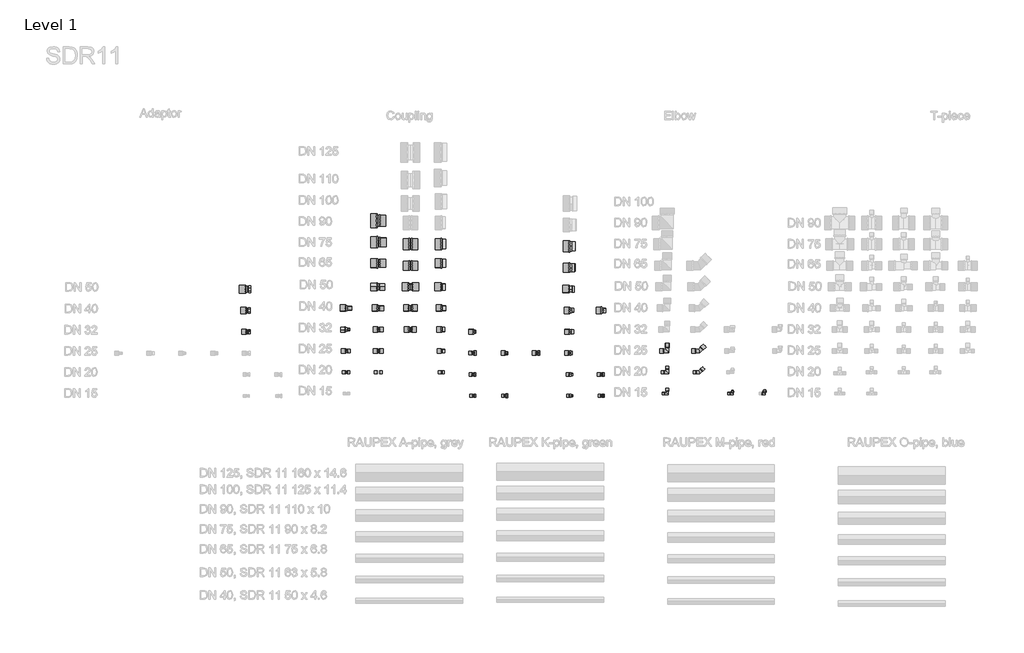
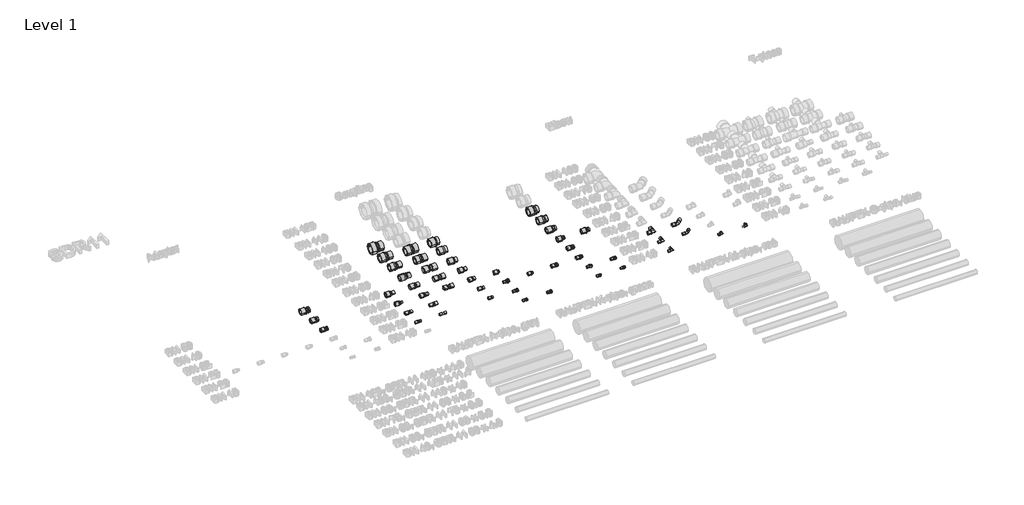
# One storey, part 3 of 16: 124 pipe fittings.
"""IFC4 building model written with IfcOpenShell, lengths in millimetres."""

from ifc_helpers import new_model, si_unit, origin, place, context, project, spatial, transform, mapped, element, save
from components import pipe_fitting_af9ba397, pipe_fitting_2c702f34, pipe_fitting_be5980b3, pipe_fitting_0d2e2301, pipe_fitting_3aadb600, pipe_fitting_378b12e4, pipe_fitting_00baa34a, pipe_fitting_dab1daa7, pipe_fitting_c9fbcce2, pipe_fitting_98be0705, pipe_fitting_7b38b3fe, pipe_fitting_3647528e, pipe_fitting_8175d26d, pipe_fitting_2041175b, pipe_fitting_f16ebe25, pipe_fitting_526a7da2, pipe_fitting_44d2cd18, adapter_with_union_nut_sdr11_a_union_nut_lx_b692c261, adapter_with_union_nut_sdr11_a_union_nut_lx_88bdcbd4, adapter_with_union_nut_sdr11_a_union_nut_lx_b8b73a84, coupling_union_f10d7a8f, coupling_union_f24334cc, coupling_union_26f199f2, coupling_union_cbcc5ad7, coupling_union_0abae06c, coupling_union_130b633a, elbow_sdr11_lx_elbow_sdr_11_lx_623d303d, elbow_sdr11_lx_elbow_sdr_11_lx_9afd64a0, elbow_sdr11_lx_elbow_sdr_11_lx_04f5514c, elbow_sdr11_lx_elbow_sdr_11_lx_81e20379, elbow_sdr11_lx_elbow_sdr_11_lx_e0cd5045, elbow_adapter_sdr11_lx_elbow_adapter_sdr_11_lx_4b792a66, elbow_adapter_sdr11_lx_elbow_adapter_sdr_11_lx_cc2d060e, female_adapter_internal_thread_sdr11_female_adapter_lx_e3558355, female_adapter_internal_thread_sdr11_female_adapter_lx_b72150e8, female_adapter_internal_thread_sdr11_female_adapter_lx_0baaf817, female_adapter_internal_thread_sdr11_female_adapter_lx_4a9fde89, female_adapter_internal_thread_sdr11_female_adapter_lx_76b21a85, female_adapter_internal_thread_sdr11_female_adapter_lx_59931cbf, female_adapter_internal_thread_sdr11_female_adapter_lx_052b0fb5, male_adapter_external_thread_sdr11_male_adapter_lx_4a5881c0, male_adapter_external_thread_sdr11_male_adapter_lx_f4faac24, male_adapter_external_thread_sdr11_male_adapter_lx_0d78ced2, male_adapter_external_thread_sdr11_male_adapter_lx_96740124, male_adapter_external_thread_sdr11_male_adapter_lx_289b96de, male_adapter_external_thread_sdr11_male_adapter_lx_11594ce0, male_adapter_external_thread_sdr11_male_adapter_lx_ea96c67b, male_adapter_external_thread_sdr11_male_adapter_lx_b940736f, male_adapter_external_thread_sdr11_male_adapter_lx_cf543375, male_adapter_external_thread_sdr11_male_adapter_rx_4136f3fd, male_adapter_external_thread_sdr11_male_adapter_rx_7419d65c, sleeve_lx_11_2e170aa1, sleeve_lx_11_3fcb8560, sleeve_lx_11_f19e3dbf, sleeve_lx_11_b9b419b6, sleeve_lx_11_e5eab1a7, sleeve_lx_11_ddfe2885, sleeve_rx_11_7b1edd19, sleeve_rx_11_d7843ee1, sleeve_rx_11_d7b6a074

model = new_model("IFC4")

# Units and contexts
model_context = context("Model", 3, world=origin())
ifc_project = project(units=[si_unit("LENGTHUNIT", "METRE", prefix="MILLI")], contexts=[model_context])

# Site, building, storey
site = spatial("IfcSite", under=ifc_project)
building = spatial("IfcBuilding", under=site)
storey = spatial("IfcBuildingStorey", under=building, Name="Level 1", Elevation=0.0)

# Pipe fittings
placement = place(None, origin())
pipe_fitting_shape = pipe_fitting_af9ba397(model_context)
element("IfcPipeFitting", 1, ObjectType="Coupling transistion : C RE SDR11 LX", at=placement, inside=storey, context=model_context, shape_type="MappedRepresentation", body=[
    mapped(pipe_fitting_shape, transform((11503.1112925, 840.5489138, 0.0), x_axis=(1.0, 0.0, 0.0), y_axis=(0.0, 1.0, 0.0), z_axis=(0.0, 0.0, 1.0))),
])
pipe_fitting_2_shape = pipe_fitting_2c702f34(model_context)
element("IfcPipeFitting", 2, ObjectType="Coupling transistion : C RE SDR11 RX", at=placement, inside=storey, context=model_context, shape_type="MappedRepresentation", body=[
    mapped(pipe_fitting_2_shape, transform((11803.1112925, 1660.5489138, 0.0), x_axis=(1.0, 0.0, 0.0), y_axis=(0.0, 1.0, 0.0), z_axis=(0.0, 0.0, 1.0))),
])
pipe_fitting_3_shape = pipe_fitting_be5980b3(model_context)
element("IfcPipeFitting", 3, ObjectType="Adapter with welding end : A welding LX", at=placement, inside=storey, context=model_context, shape_type="MappedRepresentation", body=[
    mapped(pipe_fitting_3_shape, transform((12403.1112925, 640.5489138, 0.0), x_axis=(1.0, 0.0, 0.0), y_axis=(0.0, 1.0, 0.0), z_axis=(0.0, 0.0, 1.0))),
])
pipe_fitting_4_shape = pipe_fitting_0d2e2301(model_context)
element("IfcPipeFitting", 4, ObjectType="Coupling transistion : C RE SDR11 LX", at=placement, inside=storey, context=model_context, shape_type="MappedRepresentation", body=[
    mapped(pipe_fitting_4_shape, transform((11803.1112925, 1040.5489138, 0.0), x_axis=(1.0, 0.0, 0.0), y_axis=(0.0, 1.0, 0.0), z_axis=(0.0, 0.0, 1.0))),
])
pipe_fitting_5_shape = pipe_fitting_3aadb600(model_context)
element("IfcPipeFitting", 5, ObjectType="Coupling transistion : C RE SDR11 LX", at=placement, inside=storey, context=model_context, shape_type="MappedRepresentation", body=[
    mapped(pipe_fitting_5_shape, transform((11803.1112925, 1240.5489138, 0.0), x_axis=(1.0, 0.0, 0.0), y_axis=(0.0, 1.0, 0.0), z_axis=(0.0, 0.0, 1.0))),
])
pipe_fitting_6_shape = pipe_fitting_378b12e4(model_context)
element("IfcPipeFitting", 6, ObjectType="Coupling transistion : C RE SDR11 LX", at=placement, inside=storey, context=model_context, shape_type="MappedRepresentation", body=[
    mapped(pipe_fitting_6_shape, transform((11803.1112925, 1440.5489138, 0.0), x_axis=(1.0, 0.0, 0.0), y_axis=(0.0, 0.0, -1.0), z_axis=(0.0, 1.0, 0.0))),
])
pipe_fitting_7_shape = pipe_fitting_00baa34a(model_context)
element("IfcPipeFitting", 7, ObjectType="Coupling transistion : C RE SDR11 LX", at=placement, inside=storey, context=model_context, shape_type="MappedRepresentation", body=[
    mapped(pipe_fitting_7_shape, transform((11503.1112925, 640.5489138, 0.0), x_axis=(1.0, 0.0, 0.0), y_axis=(0.0, 1.0, 0.0), z_axis=(0.0, 0.0, 1.0))),
])
pipe_fitting_8_shape = pipe_fitting_dab1daa7(model_context)
element("IfcPipeFitting", 8, ObjectType="Coupling transistion : C RE SDR11 LX", at=placement, inside=storey, context=model_context, shape_type="MappedRepresentation", body=[
    mapped(pipe_fitting_8_shape, transform((11503.1112925, 1040.5489138, 0.0), x_axis=(1.0, 0.0, 0.0), y_axis=(0.0, 0.0, -1.0), z_axis=(0.0, 1.0, 0.0))),
])
pipe_fitting_9_shape = pipe_fitting_c9fbcce2(model_context)
element("IfcPipeFitting", 9, ObjectType="Coupling transistion : C RE SDR11 LX", at=placement, inside=storey, context=model_context, shape_type="MappedRepresentation", body=[
    mapped(pipe_fitting_9_shape, transform((11503.1112925, 1240.5489138, 0.0), x_axis=(1.0, 0.0, 0.0), y_axis=(0.0, 1.0, 0.0), z_axis=(0.0, 0.0, 1.0))),
])
pipe_fitting_10_shape = pipe_fitting_98be0705(model_context)
element("IfcPipeFitting", 10, ObjectType="Coupling transistion : C RE SDR11 RX", at=placement, inside=storey, context=model_context, shape_type="MappedRepresentation", body=[
    mapped(pipe_fitting_10_shape, transform((11803.1112925, 1860.5489138, 0.0), x_axis=(1.0, 0.0, 0.0), y_axis=(0.0, 1.0, 0.0), z_axis=(0.0, 0.0, 1.0))),
])
pipe_fitting_11_shape = pipe_fitting_7b38b3fe(model_context)
element("IfcPipeFitting", 11, ObjectType="Coupling transistion : C RE SDR11 RX", at=placement, inside=storey, context=model_context, shape_type="MappedRepresentation", body=[
    mapped(pipe_fitting_11_shape, transform((11803.1112925, 2060.5489138, 0.0), x_axis=(1.0, 0.0, 0.0), y_axis=(0.0, 1.0, 0.0), z_axis=(0.0, 0.0, 1.0))),
])
pipe_fitting_12_shape = pipe_fitting_3647528e(model_context)
element("IfcPipeFitting", 12, ObjectType="Adapter with welding end : A welding LX", at=placement, inside=storey, context=model_context, shape_type="MappedRepresentation", body=[
    mapped(pipe_fitting_12_shape, transform((12403.1112925, 1440.5489138, 0.0), x_axis=(1.0, 0.0, 0.0), y_axis=(0.0, 1.0, 0.0), z_axis=(0.0, 0.0, 1.0))),
])
pipe_fitting_13_shape = pipe_fitting_8175d26d(model_context)
element("IfcPipeFitting", 13, ObjectType="Adapter with welding end : A welding LX", at=placement, inside=storey, context=model_context, shape_type="MappedRepresentation", body=[
    mapped(pipe_fitting_13_shape, transform((12403.1112925, 1240.5489138, 0.0), x_axis=(1.0, 0.0, 0.0), y_axis=(0.0, 1.0, 0.0), z_axis=(0.0, 0.0, 1.0))),
])
pipe_fitting_14_shape = pipe_fitting_2041175b(model_context)
element("IfcPipeFitting", 14, ObjectType="Adapter with welding end : A welding LX", at=placement, inside=storey, context=model_context, shape_type="MappedRepresentation", body=[
    mapped(pipe_fitting_14_shape, transform((12403.1112925, 1040.5489138, 0.0), x_axis=(1.0, 0.0, 0.0), y_axis=(0.0, 1.0, 0.0), z_axis=(0.0, 0.0, 1.0))),
])
pipe_fitting_15_shape = pipe_fitting_f16ebe25(model_context)
element("IfcPipeFitting", 15, ObjectType="Adapter with welding end : A welding LX", at=placement, inside=storey, context=model_context, shape_type="MappedRepresentation", body=[
    mapped(pipe_fitting_15_shape, transform((12403.1112925, 840.5489138, 0.0), x_axis=(1.0, 0.0, 0.0), y_axis=(0.0, 1.0, 0.0), z_axis=(0.0, 0.0, 1.0))),
])
pipe_fitting_16_shape = pipe_fitting_526a7da2(model_context)
element("IfcPipeFitting", 16, ObjectType="Adapter with welding end : A welding RX", at=placement, inside=storey, context=model_context, shape_type="MappedRepresentation", body=[
    mapped(pipe_fitting_16_shape, transform((12403.1112925, 1660.5489138, 0.0), x_axis=(1.0, 0.0, 0.0), y_axis=(0.0, 1.0, 0.0), z_axis=(0.0, 0.0, 1.0))),
])
pipe_fitting_17_shape = pipe_fitting_44d2cd18(model_context)
element("IfcPipeFitting", 17, ObjectType="Adapter with welding end : A welding RX", at=placement, inside=storey, context=model_context, shape_type="MappedRepresentation", body=[
    mapped(pipe_fitting_17_shape, transform((12403.1112925, 1840.5489138, 0.0), x_axis=(1.0, 0.0, 0.0), y_axis=(0.0, 1.0, 0.0), z_axis=(0.0, 0.0, 1.0))),
])
adapter_with_union_nut_sdr11_a_union_nut_lx_shape = adapter_with_union_nut_sdr11_a_union_nut_lx_b692c261(model_context)
element("IfcPipeFitting", 18, ObjectType="Adapter with union nut SDR11 : A union nut LX", at=placement, inside=storey, context=model_context, shape_type="MappedRepresentation", body=[
    mapped(adapter_with_union_nut_sdr11_a_union_nut_lx_shape, transform((10576.3241815, 1019.0534305, 0.0), x_axis=(1.0, 0.0, 0.0), y_axis=(0.0, 1.0, 0.0), z_axis=(0.0, 0.0, 1.0))),
])
adapter_with_union_nut_sdr11_a_union_nut_lx_2_shape = adapter_with_union_nut_sdr11_a_union_nut_lx_88bdcbd4(model_context)
element("IfcPipeFitting", 19, ObjectType="Adapter with union nut SDR11 : A union nut LX", at=placement, inside=storey, context=model_context, shape_type="MappedRepresentation", body=[
    mapped(adapter_with_union_nut_sdr11_a_union_nut_lx_2_shape, transform((10576.3241815, 1219.0534305, 0.0), x_axis=(1.0, 0.0, 0.0), y_axis=(0.0, 1.0, 0.0), z_axis=(0.0, 0.0, 1.0))),
])
adapter_with_union_nut_sdr11_a_union_nut_lx_3_shape = adapter_with_union_nut_sdr11_a_union_nut_lx_b8b73a84(model_context)
element("IfcPipeFitting", 20, ObjectType="Adapter with union nut SDR11 : A union nut LX", at=placement, inside=storey, context=model_context, shape_type="MappedRepresentation", body=[
    mapped(adapter_with_union_nut_sdr11_a_union_nut_lx_3_shape, transform((10576.3241815, 1419.0534305, 0.0), x_axis=(1.0, 0.0, 0.0), y_axis=(0.0, 1.0, 0.0), z_axis=(0.0, 0.0, 1.0))),
])
coupling_union_shape = coupling_union_f10d7a8f(model_context)
element("IfcPipeFitting", 21, ObjectType="Coupling union : C EQ SDR11 LX", at=placement, inside=storey, context=model_context, shape_type="MappedRepresentation", body=[
    mapped(coupling_union_shape, transform((12103.1112925, 1440.5489138, 0.0), x_axis=(1.0, 0.0, 0.0), y_axis=(0.0, 1.0, 0.0), z_axis=(0.0, 0.0, 1.0))),
])
coupling_union_2_shape = coupling_union_f24334cc(model_context)
element("IfcPipeFitting", 22, ObjectType="Coupling union : C EQ SDR11 LX", at=placement, inside=storey, context=model_context, shape_type="MappedRepresentation", body=[
    mapped(coupling_union_2_shape, transform((11803.1112925, 840.5489138, 0.0), x_axis=(1.0, 0.0, 0.0), y_axis=(0.0, 1.0, 0.0), z_axis=(0.0, 0.0, 1.0))),
])
coupling_union_3_shape = coupling_union_26f199f2(model_context)
element("IfcPipeFitting", 23, ObjectType="Coupling union : C EQ SDR11 LX", at=placement, inside=storey, context=model_context, shape_type="MappedRepresentation", body=[
    mapped(coupling_union_3_shape, transform((12103.1112925, 1040.5489138, 0.0), x_axis=(1.0, 0.0, 0.0), y_axis=(0.0, 1.0, 0.0), z_axis=(0.0, 0.0, 1.0))),
])
coupling_union_4_shape = coupling_union_cbcc5ad7(model_context)
element("IfcPipeFitting", 24, ObjectType="Coupling union : C EQ SDR11 LX", at=placement, inside=storey, context=model_context, shape_type="MappedRepresentation", body=[
    mapped(coupling_union_4_shape, transform((12103.1112925, 1240.5489138, 0.0), x_axis=(1.0, 0.0, 0.0), y_axis=(0.0, 1.0, 0.0), z_axis=(0.0, 0.0, 1.0))),
])
coupling_union_5_shape = coupling_union_0abae06c(model_context)
element("IfcPipeFitting", 25, ObjectType="Coupling union : C EQ SDR11 RX", at=placement, inside=storey, context=model_context, shape_type="MappedRepresentation", body=[
    mapped(coupling_union_5_shape, transform((12103.1112925, 1640.5489138, 0.0), x_axis=(1.0, 0.0, 0.0), y_axis=(0.0, 1.0, 0.0), z_axis=(0.0, 0.0, 1.0))),
])
coupling_union_6_shape = coupling_union_130b633a(model_context)
element("IfcPipeFitting", 26, ObjectType="Coupling union : C EQ SDR11 RX", at=placement, inside=storey, context=model_context, shape_type="MappedRepresentation", body=[
    mapped(coupling_union_6_shape, transform((12103.1112925, 1840.5489138, 0.0), x_axis=(1.0, 0.0, 0.0), y_axis=(0.0, 1.0, 0.0), z_axis=(0.0, 0.0, 1.0))),
])
elbow_sdr11_lx_elbow_sdr_11_lx_shape = elbow_sdr11_lx_elbow_sdr_11_lx_623d303d(model_context)
element("IfcPipeFitting", 27, ObjectType="Elbow SDR11 LX : Elbow SDR 11 LX", at=placement, inside=storey, context=model_context, shape_type="MappedRepresentation", body=[
    mapped(elbow_sdr11_lx_elbow_sdr_11_lx_shape, transform((14509.6158086, 640.5489138, 0.0), x_axis=(1.0, 0.0, 0.0), y_axis=(0.0, 1.0, 0.0), z_axis=(0.0, 0.0, 1.0))),
])
elbow_sdr11_lx_elbow_sdr_11_lx_2_shape = elbow_sdr11_lx_elbow_sdr_11_lx_9afd64a0(model_context)
element("IfcPipeFitting", 28, ObjectType="Elbow SDR11 LX : Elbow SDR 11 LX", at=placement, inside=storey, context=model_context, shape_type="MappedRepresentation", body=[
    mapped(elbow_sdr11_lx_elbow_sdr_11_lx_2_shape, transform((14509.6158086, 440.5489138, 0.0), x_axis=(1.0, 0.0, 0.0), y_axis=(0.0, 1.0, 0.0), z_axis=(0.0, 0.0, 1.0))),
])
elbow_sdr11_lx_elbow_sdr_11_lx_3_shape = elbow_sdr11_lx_elbow_sdr_11_lx_04f5514c(model_context)
element("IfcPipeFitting", 29, ObjectType="Elbow SDR11 LX : Elbow SDR 11 LX", at=placement, inside=storey, context=model_context, shape_type="MappedRepresentation", body=[
    mapped(elbow_sdr11_lx_elbow_sdr_11_lx_3_shape, transform((14509.6158086, 840.5489138, 0.0), x_axis=(1.0, 0.0, 0.0), y_axis=(0.0, 1.0, 0.0), z_axis=(0.0, 0.0, 1.0))),
])
elbow_sdr11_lx_elbow_sdr_11_lx_4_shape = elbow_sdr11_lx_elbow_sdr_11_lx_81e20379(model_context)
element("IfcPipeFitting", 30, ObjectType="Elbow SDR11 LX : Elbow SDR 11 LX", at=placement, inside=storey, context=model_context, shape_type="MappedRepresentation", body=[
    mapped(elbow_sdr11_lx_elbow_sdr_11_lx_4_shape, transform((14809.6158086, 640.5489138, 0.0), x_axis=(1.0, 0.0, 0.0), y_axis=(0.0, 1.0, 0.0), z_axis=(0.0, 0.0, 1.0))),
])
elbow_sdr11_lx_elbow_sdr_11_lx_5_shape = elbow_sdr11_lx_elbow_sdr_11_lx_e0cd5045(model_context)
element("IfcPipeFitting", 31, ObjectType="Elbow SDR11 LX : Elbow SDR 11 LX", at=placement, inside=storey, context=model_context, shape_type="MappedRepresentation", body=[
    mapped(elbow_sdr11_lx_elbow_sdr_11_lx_5_shape, transform((14809.6158086, 840.5489138, 0.0), x_axis=(1.0, 0.0, 0.0), y_axis=(0.0, 1.0, 0.0), z_axis=(0.0, 0.0, 1.0))),
])
elbow_adapter_sdr11_lx_elbow_adapter_sdr_11_lx_shape = elbow_adapter_sdr11_lx_elbow_adapter_sdr_11_lx_4b792a66(model_context)
element("IfcPipeFitting", 32, ObjectType="Elbow adapter SDR11 LX : Elbow adapter SDR 11 LX", at=placement, inside=storey, context=model_context, shape_type="MappedRepresentation", body=[
    mapped(elbow_adapter_sdr11_lx_elbow_adapter_sdr_11_lx_shape, transform((15121.1751687, 440.5489138, 0.0), x_axis=(1.0, 0.0, 0.0), y_axis=(0.0, 1.0, 0.0), z_axis=(0.0, 0.0, 1.0))),
])
elbow_adapter_sdr11_lx_elbow_adapter_sdr_11_lx_2_shape = elbow_adapter_sdr11_lx_elbow_adapter_sdr_11_lx_cc2d060e(model_context)
element("IfcPipeFitting", 33, ObjectType="Elbow adapter SDR11 LX : Elbow adapter SDR 11 LX", at=placement, inside=storey, context=model_context, shape_type="MappedRepresentation", body=[
    mapped(elbow_adapter_sdr11_lx_elbow_adapter_sdr_11_lx_2_shape, transform((15421.1751687, 440.5489138, 0.0), x_axis=(1.0, 0.0, 0.0), y_axis=(0.0, 1.0, 0.0), z_axis=(0.0, 0.0, 1.0))),
])
female_adapter_internal_thread_sdr11_female_adapter_lx_shape = female_adapter_internal_thread_sdr11_female_adapter_lx_e3558355(model_context)
element("IfcPipeFitting", 34, ObjectType="Female adapter internal thread SDR11 : Female adapter LX", at=placement, inside=storey, context=model_context, shape_type="MappedRepresentation", body=[
    mapped(female_adapter_internal_thread_sdr11_female_adapter_lx_shape, transform((12696.8014725, 420.5489138, 0.0), x_axis=(1.0, 0.0, 0.0), y_axis=(0.0, 1.0, 0.0), z_axis=(0.0, 0.0, 1.0))),
])
female_adapter_internal_thread_sdr11_female_adapter_lx_2_shape = female_adapter_internal_thread_sdr11_female_adapter_lx_b72150e8(model_context)
element("IfcPipeFitting", 35, ObjectType="Female adapter internal thread SDR11 : Female adapter LX", at=placement, inside=storey, context=model_context, shape_type="MappedRepresentation", body=[
    mapped(female_adapter_internal_thread_sdr11_female_adapter_lx_2_shape, transform((12996.8014725, 420.5489138, 0.0), x_axis=(1.0, 0.0, 0.0), y_axis=(0.0, 1.0, 0.0), z_axis=(0.0, 0.0, 1.0))),
])
female_adapter_internal_thread_sdr11_female_adapter_lx_3_shape = female_adapter_internal_thread_sdr11_female_adapter_lx_0baaf817(model_context)
element("IfcPipeFitting", 36, ObjectType="Female adapter internal thread SDR11 : Female adapter LX", at=placement, inside=storey, context=model_context, shape_type="MappedRepresentation", body=[
    mapped(female_adapter_internal_thread_sdr11_female_adapter_lx_3_shape, transform((12696.8014725, 620.5489138, 0.0), x_axis=(1.0, 0.0, 0.0), y_axis=(0.0, 1.0, 0.0), z_axis=(0.0, 0.0, 1.0))),
])
female_adapter_internal_thread_sdr11_female_adapter_lx_4_shape = female_adapter_internal_thread_sdr11_female_adapter_lx_4a9fde89(model_context)
element("IfcPipeFitting", 37, ObjectType="Female adapter internal thread SDR11 : Female adapter LX", at=placement, inside=storey, context=model_context, shape_type="MappedRepresentation", body=[
    mapped(female_adapter_internal_thread_sdr11_female_adapter_lx_4_shape, transform((12696.8014725, 820.5489138, 0.0), x_axis=(1.0, 0.0, 0.0), y_axis=(0.0, 1.0, 0.0), z_axis=(0.0, 0.0, 1.0))),
])
female_adapter_internal_thread_sdr11_female_adapter_lx_5_shape = female_adapter_internal_thread_sdr11_female_adapter_lx_76b21a85(model_context)
element("IfcPipeFitting", 38, ObjectType="Female adapter internal thread SDR11 : Female adapter LX", at=placement, inside=storey, context=model_context, shape_type="MappedRepresentation", body=[
    mapped(female_adapter_internal_thread_sdr11_female_adapter_lx_5_shape, transform((12996.8014725, 820.5489138, 0.0), x_axis=(1.0, 0.0, 0.0), y_axis=(0.0, 1.0, 0.0), z_axis=(0.0, 0.0, 1.0))),
])
female_adapter_internal_thread_sdr11_female_adapter_lx_6_shape = female_adapter_internal_thread_sdr11_female_adapter_lx_59931cbf(model_context)
element("IfcPipeFitting", 39, ObjectType="Female adapter internal thread SDR11 : Female adapter LX", at=placement, inside=storey, context=model_context, shape_type="MappedRepresentation", body=[
    mapped(female_adapter_internal_thread_sdr11_female_adapter_lx_6_shape, transform((13296.8014725, 820.5489138, 0.0), x_axis=(1.0, 0.0, 0.0), y_axis=(0.0, 1.0, 0.0), z_axis=(0.0, 0.0, 1.0))),
])
female_adapter_internal_thread_sdr11_female_adapter_lx_7_shape = female_adapter_internal_thread_sdr11_female_adapter_lx_052b0fb5(model_context)
element("IfcPipeFitting", 40, ObjectType="Female adapter internal thread SDR11 : Female adapter LX", at=placement, inside=storey, context=model_context, shape_type="MappedRepresentation", body=[
    mapped(female_adapter_internal_thread_sdr11_female_adapter_lx_7_shape, transform((12696.8014725, 1020.5489138, 0.0), x_axis=(1.0, 0.0, 0.0), y_axis=(0.0, 1.0, 0.0), z_axis=(0.0, 0.0, 1.0))),
])
male_adapter_external_thread_sdr11_male_adapter_lx_shape = male_adapter_external_thread_sdr11_male_adapter_lx_4a5881c0(model_context)
element("IfcPipeFitting", 41, ObjectType="Male adapter external thread SDR11 : Male adapter LX", at=placement, inside=storey, context=model_context, shape_type="MappedRepresentation", body=[
    mapped(male_adapter_external_thread_sdr11_male_adapter_lx_shape, transform((13596.8014725, 420.5489138, 0.0), x_axis=(1.0, 0.0, 0.0), y_axis=(0.0, 1.0, 0.0), z_axis=(0.0, 0.0, 1.0))),
])
male_adapter_external_thread_sdr11_male_adapter_lx_2_shape = male_adapter_external_thread_sdr11_male_adapter_lx_f4faac24(model_context)
element("IfcPipeFitting", 42, ObjectType="Male adapter external thread SDR11 : Male adapter LX", at=placement, inside=storey, context=model_context, shape_type="MappedRepresentation", body=[
    mapped(male_adapter_external_thread_sdr11_male_adapter_lx_2_shape, transform((13896.8014725, 420.5489138, 0.0), x_axis=(1.0, 0.0, 0.0), y_axis=(0.0, 1.0, 0.0), z_axis=(0.0, 0.0, 1.0))),
])
male_adapter_external_thread_sdr11_male_adapter_lx_3_shape = male_adapter_external_thread_sdr11_male_adapter_lx_0d78ced2(model_context)
element("IfcPipeFitting", 43, ObjectType="Male adapter external thread SDR11 : Male adapter LX", at=placement, inside=storey, context=model_context, shape_type="MappedRepresentation", body=[
    mapped(male_adapter_external_thread_sdr11_male_adapter_lx_3_shape, transform((13596.8014725, 620.5489138, 0.0), x_axis=(1.0, 0.0, 0.0), y_axis=(0.0, 1.0, 0.0), z_axis=(0.0, 0.0, 1.0))),
])
male_adapter_external_thread_sdr11_male_adapter_lx_4_shape = male_adapter_external_thread_sdr11_male_adapter_lx_96740124(model_context)
element("IfcPipeFitting", 44, ObjectType="Male adapter external thread SDR11 : Male adapter LX", at=placement, inside=storey, context=model_context, shape_type="MappedRepresentation", body=[
    mapped(male_adapter_external_thread_sdr11_male_adapter_lx_4_shape, transform((13896.8014725, 620.5489138, 0.0), x_axis=(1.0, 0.0, 0.0), y_axis=(0.0, 1.0, 0.0), z_axis=(0.0, 0.0, 1.0))),
])
male_adapter_external_thread_sdr11_male_adapter_lx_5_shape = male_adapter_external_thread_sdr11_male_adapter_lx_289b96de(model_context)
element("IfcPipeFitting", 45, ObjectType="Male adapter external thread SDR11 : Male adapter LX", at=placement, inside=storey, context=model_context, shape_type="MappedRepresentation", body=[
    mapped(male_adapter_external_thread_sdr11_male_adapter_lx_5_shape, transform((13596.8014725, 820.5489138, 0.0), x_axis=(1.0, 0.0, 0.0), y_axis=(0.0, 1.0, 0.0), z_axis=(0.0, 0.0, 1.0))),
])
male_adapter_external_thread_sdr11_male_adapter_lx_6_shape = male_adapter_external_thread_sdr11_male_adapter_lx_11594ce0(model_context)
element("IfcPipeFitting", 46, ObjectType="Male adapter external thread SDR11 : Male adapter LX", at=placement, inside=storey, context=model_context, shape_type="MappedRepresentation", body=[
    mapped(male_adapter_external_thread_sdr11_male_adapter_lx_6_shape, transform((13596.8014725, 1020.5489138, 0.0), x_axis=(1.0, 0.0, 0.0), y_axis=(0.0, 1.0, 0.0), z_axis=(0.0, 0.0, 1.0))),
])
male_adapter_external_thread_sdr11_male_adapter_lx_7_shape = male_adapter_external_thread_sdr11_male_adapter_lx_ea96c67b(model_context)
element("IfcPipeFitting", 47, ObjectType="Male adapter external thread SDR11 : Male adapter LX", at=placement, inside=storey, context=model_context, shape_type="MappedRepresentation", body=[
    mapped(male_adapter_external_thread_sdr11_male_adapter_lx_7_shape, transform((13596.8014725, 1220.5489138, 0.0), x_axis=(1.0, 0.0, 0.0), y_axis=(0.0, 1.0, 0.0), z_axis=(0.0, 0.0, 1.0))),
])
male_adapter_external_thread_sdr11_male_adapter_lx_8_shape = male_adapter_external_thread_sdr11_male_adapter_lx_b940736f(model_context)
element("IfcPipeFitting", 48, ObjectType="Male adapter external thread SDR11 : Male adapter LX", at=placement, inside=storey, context=model_context, shape_type="MappedRepresentation", body=[
    mapped(male_adapter_external_thread_sdr11_male_adapter_lx_8_shape, transform((13896.8014725, 1220.5489138, 0.0), x_axis=(1.0, 0.0, 0.0), y_axis=(0.0, 1.0, 0.0), z_axis=(0.0, 0.0, 1.0))),
])
male_adapter_external_thread_sdr11_male_adapter_lx_9_shape = male_adapter_external_thread_sdr11_male_adapter_lx_cf543375(model_context)
element("IfcPipeFitting", 49, ObjectType="Male adapter external thread SDR11 : Male adapter LX", at=placement, inside=storey, context=model_context, shape_type="MappedRepresentation", body=[
    mapped(male_adapter_external_thread_sdr11_male_adapter_lx_9_shape, transform((13596.8014725, 1420.5489138, 0.0), x_axis=(1.0, 0.0, 0.0), y_axis=(0.0, 1.0, 0.0), z_axis=(0.0, 0.0, 1.0))),
])
male_adapter_external_thread_sdr11_male_adapter_rx_shape = male_adapter_external_thread_sdr11_male_adapter_rx_4136f3fd(model_context)
element("IfcPipeFitting", 50, ObjectType="Male adapter external thread SDR11 : Male adapter RX", at=placement, inside=storey, context=model_context, shape_type="MappedRepresentation", body=[
    mapped(male_adapter_external_thread_sdr11_male_adapter_rx_shape, transform((13596.8014725, 1620.5489138, 0.0), x_axis=(1.0, 0.0, 0.0), y_axis=(0.0, 1.0, 0.0), z_axis=(0.0, 0.0, 1.0))),
])
male_adapter_external_thread_sdr11_male_adapter_rx_2_shape = male_adapter_external_thread_sdr11_male_adapter_rx_7419d65c(model_context)
element("IfcPipeFitting", 51, ObjectType="Male adapter external thread SDR11 : Male adapter RX", at=placement, inside=storey, context=model_context, shape_type="MappedRepresentation", body=[
    mapped(male_adapter_external_thread_sdr11_male_adapter_rx_2_shape, transform((13596.8014725, 1820.5489138, 0.0), x_axis=(1.0, 0.0, 0.0), y_axis=(0.0, 1.0, 0.0), z_axis=(0.0, 0.0, 1.0))),
])
sleeve_lx_11_shape = sleeve_lx_11_2e170aa1(model_context)
element("IfcPipeFitting", 52, ObjectType="Sleeve : LX 11", at=placement, inside=storey, context=model_context, shape_type="MappedRepresentation", body=[
    mapped(sleeve_lx_11_shape, transform((11756.1112925, 840.5489138, 0.0), x_axis=(1.0, 0.0, 0.0), y_axis=(0.0, 1.0, 0.0), z_axis=(0.0, 0.0, 1.0))),
])
element("IfcPipeFitting", 53, ObjectType="Sleeve : LX 11", at=placement, inside=storey, context=model_context, shape_type="MappedRepresentation", body=[
    mapped(sleeve_lx_11_shape, transform((11815.1112925, 840.5489138, 0.0), x_axis=(1.0, 0.0, 0.0), y_axis=(0.0, 1.0, 0.0), z_axis=(0.0, 0.0, 1.0))),
])
element("IfcPipeFitting", 54, ObjectType="Sleeve : LX 11", at=placement, inside=storey, context=model_context, shape_type="MappedRepresentation", body=[
    mapped(sleeve_lx_11_shape, transform((14438.6158086, 840.5489138, 0.0), x_axis=(1.0, 0.0, 0.0), y_axis=(0.0, 1.0, 0.0), z_axis=(0.0, 0.0, 1.0))),
])
element("IfcPipeFitting", 55, ObjectType="Sleeve : LX 11", at=placement, inside=storey, context=model_context, shape_type="MappedRepresentation", body=[
    mapped(sleeve_lx_11_shape, transform((14509.6158086, 911.5489138, 0.0), x_axis=(0.0, -1.0, 0.0), y_axis=(1.0, 0.0, 0.0), z_axis=(0.0, 0.0, 1.0))),
])
element("IfcPipeFitting", 56, ObjectType="Sleeve : LX 11", at=placement, inside=storey, context=model_context, shape_type="MappedRepresentation", body=[
    mapped(sleeve_lx_11_shape, transform((12952.9014725, 820.5489138, 0.0), x_axis=(1.0, 0.0, 0.0), y_axis=(0.0, 1.0, 0.0), z_axis=(0.0, 0.0, 1.0))),
])
element("IfcPipeFitting", 57, ObjectType="Sleeve : LX 11", at=placement, inside=storey, context=model_context, shape_type="MappedRepresentation", body=[
    mapped(sleeve_lx_11_shape, transform((13242.5014725, 820.5489138, 0.0), x_axis=(1.0, 0.0, 0.0), y_axis=(0.0, 1.0, 0.0), z_axis=(0.0, 0.0, 1.0))),
])
element("IfcPipeFitting", 58, ObjectType="Sleeve : LX 11", at=placement, inside=storey, context=model_context, shape_type="MappedRepresentation", body=[
    mapped(sleeve_lx_11_shape, transform((13546.8014725, 820.5489138, 0.0), x_axis=(1.0, 0.0, 0.0), y_axis=(0.0, 1.0, 0.0), z_axis=(0.0, 0.0, 1.0))),
])
element("IfcPipeFitting", 59, ObjectType="Sleeve : LX 11", at=placement, inside=storey, context=model_context, shape_type="MappedRepresentation", body=[
    mapped(sleeve_lx_11_shape, transform((14738.6158086, 840.5489138, 0.0), x_axis=(1.0, 0.0, 0.0), y_axis=(0.0, 1.0, 0.0), z_axis=(0.0, 0.0, 1.0))),
])
element("IfcPipeFitting", 60, ObjectType="Sleeve : LX 11", at=placement, inside=storey, context=model_context, shape_type="MappedRepresentation", body=[
    mapped(sleeve_lx_11_shape, transform((14859.8203901, 890.7534953, 0.0), x_axis=(-0.707106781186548, -0.707106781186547, 0.0), y_axis=(0.707106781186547, -0.707106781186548, 0.0), z_axis=(0.0, 0.0, 1.0))),
])
element("IfcPipeFitting", 61, ObjectType="Sleeve : LX 11", at=placement, inside=storey, context=model_context, shape_type="MappedRepresentation", body=[
    mapped(sleeve_lx_11_shape, transform((11456.2112925, 840.5489138, 0.0), x_axis=(1.0, 0.0, 0.0), y_axis=(0.0, 1.0, 0.0), z_axis=(0.0, 0.0, 1.0))),
])
element("IfcPipeFitting", 62, ObjectType="Sleeve : LX 11", at=placement, inside=storey, context=model_context, shape_type="MappedRepresentation", body=[
    mapped(sleeve_lx_11_shape, transform((11815.1112925, 1040.5489138, 0.0), x_axis=(1.0, 0.0, 0.0), y_axis=(0.0, 1.0, 0.0), z_axis=(0.0, 0.0, 1.0))),
])
element("IfcPipeFitting", 63, ObjectType="Sleeve : LX 11", at=placement, inside=storey, context=model_context, shape_type="MappedRepresentation", body=[
    mapped(sleeve_lx_11_shape, transform((11516.6112925, 1240.5489138, 0.0), x_axis=(1.0, 0.0, 0.0), y_axis=(0.0, 1.0, 0.0), z_axis=(0.0, 0.0, 1.0))),
])
element("IfcPipeFitting", 64, ObjectType="Sleeve : LX 11", at=placement, inside=storey, context=model_context, shape_type="MappedRepresentation", body=[
    mapped(sleeve_lx_11_shape, transform((12354.9112925, 840.5489138, 0.0), x_axis=(1.0, 0.0, 0.0), y_axis=(0.0, 1.0, 0.0), z_axis=(0.0, 0.0, 1.0))),
])
sleeve_lx_11_2_shape = sleeve_lx_11_3fcb8560(model_context)
element("IfcPipeFitting", 65, ObjectType="Sleeve : LX 11", at=placement, inside=storey, context=model_context, shape_type="MappedRepresentation", body=[
    mapped(sleeve_lx_11_2_shape, transform((15076.1751687, 440.5489138, 0.0), x_axis=(1.0, 0.0, 0.0), y_axis=(0.0, 1.0, 0.0), z_axis=(0.0, 0.0, 1.0))),
])
element("IfcPipeFitting", 66, ObjectType="Sleeve : LX 11", at=placement, inside=storey, context=model_context, shape_type="MappedRepresentation", body=[
    mapped(sleeve_lx_11_2_shape, transform((14461.1158086, 440.5489138, 0.0), x_axis=(1.0, 0.0, 0.0), y_axis=(0.0, 1.0, 0.0), z_axis=(0.0, 0.0, 1.0))),
])
element("IfcPipeFitting", 67, ObjectType="Sleeve : LX 11", at=placement, inside=storey, context=model_context, shape_type="MappedRepresentation", body=[
    mapped(sleeve_lx_11_2_shape, transform((14509.6158086, 489.0489138, 0.0), x_axis=(0.0, -1.0, 0.0), y_axis=(1.0, 0.0, 0.0), z_axis=(0.0, 0.0, 1.0))),
])
element("IfcPipeFitting", 68, ObjectType="Sleeve : LX 11", at=placement, inside=storey, context=model_context, shape_type="MappedRepresentation", body=[
    mapped(sleeve_lx_11_2_shape, transform((12660.3014725, 420.5489138, 0.0), x_axis=(1.0, 0.0, 0.0), y_axis=(0.0, 1.0, 0.0), z_axis=(0.0, 0.0, 1.0))),
])
element("IfcPipeFitting", 69, ObjectType="Sleeve : LX 11", at=placement, inside=storey, context=model_context, shape_type="MappedRepresentation", body=[
    mapped(sleeve_lx_11_2_shape, transform((12958.2014725, 420.5489138, 0.0), x_axis=(1.0, 0.0, 0.0), y_axis=(0.0, 1.0, 0.0), z_axis=(0.0, 0.0, 1.0))),
])
element("IfcPipeFitting", 70, ObjectType="Sleeve : LX 11", at=placement, inside=storey, context=model_context, shape_type="MappedRepresentation", body=[
    mapped(sleeve_lx_11_2_shape, transform((13568.9014725, 420.5489138, 0.0), x_axis=(1.0, 0.0, 0.0), y_axis=(0.0, 1.0, 0.0), z_axis=(0.0, 0.0, 1.0))),
])
element("IfcPipeFitting", 71, ObjectType="Sleeve : LX 11", at=placement, inside=storey, context=model_context, shape_type="MappedRepresentation", body=[
    mapped(sleeve_lx_11_2_shape, transform((13862.8014725, 420.5489138, 0.0), x_axis=(1.0, 0.0, 0.0), y_axis=(0.0, 1.0, 0.0), z_axis=(0.0, 0.0, 1.0))),
])
element("IfcPipeFitting", 72, ObjectType="Sleeve : LX 11", at=placement, inside=storey, context=model_context, shape_type="MappedRepresentation", body=[
    mapped(sleeve_lx_11_2_shape, transform((11514.1112925, 640.5489138, 0.0), x_axis=(1.0, 0.0, 0.0), y_axis=(0.0, 1.0, 0.0), z_axis=(0.0, 0.0, 1.0))),
])
element("IfcPipeFitting", 73, ObjectType="Sleeve : LX 11", at=placement, inside=storey, context=model_context, shape_type="MappedRepresentation", body=[
    mapped(sleeve_lx_11_2_shape, transform((11514.1112925, 1040.5489138, 0.0), x_axis=(1.0, 0.0, 0.0), y_axis=(0.0, 0.0, -1.0), z_axis=(0.0, 1.0, 0.0))),
])
sleeve_lx_11_3_shape = sleeve_lx_11_f19e3dbf(model_context)
element("IfcPipeFitting", 74, ObjectType="Sleeve : LX 11", at=placement, inside=storey, context=model_context, shape_type="MappedRepresentation", body=[
    mapped(sleeve_lx_11_3_shape, transform((11765.1112925, 640.5489138, 0.0), x_axis=(1.0, 0.0, 0.0), y_axis=(0.0, 1.0, 0.0), z_axis=(0.0, 0.0, 1.0))),
])
element("IfcPipeFitting", 75, ObjectType="Sleeve : LX 11", at=placement, inside=storey, context=model_context, shape_type="MappedRepresentation", body=[
    mapped(sleeve_lx_11_3_shape, transform((11814.1112925, 640.5489138, 0.0), x_axis=(1.0, 0.0, 0.0), y_axis=(0.0, 1.0, 0.0), z_axis=(0.0, 0.0, 1.0))),
])
element("IfcPipeFitting", 76, ObjectType="Sleeve : LX 11", at=placement, inside=storey, context=model_context, shape_type="MappedRepresentation", body=[
    mapped(sleeve_lx_11_3_shape, transform((14451.6158086, 640.5489138, 0.0), x_axis=(1.0, 0.0, 0.0), y_axis=(0.0, 1.0, 0.0), z_axis=(0.0, 0.0, 1.0))),
])
element("IfcPipeFitting", 77, ObjectType="Sleeve : LX 11", at=placement, inside=storey, context=model_context, shape_type="MappedRepresentation", body=[
    mapped(sleeve_lx_11_3_shape, transform((14509.6158086, 698.5489138, 0.0), x_axis=(0.0, -1.0, 0.0), y_axis=(1.0, 0.0, 0.0), z_axis=(0.0, 0.0, 1.0))),
])
element("IfcPipeFitting", 78, ObjectType="Sleeve : LX 11", at=placement, inside=storey, context=model_context, shape_type="MappedRepresentation", body=[
    mapped(sleeve_lx_11_3_shape, transform((12652.6014725, 620.5489138, 0.0), x_axis=(1.0, 0.0, 0.0), y_axis=(0.0, 1.0, 0.0), z_axis=(0.0, 0.0, 1.0))),
])
element("IfcPipeFitting", 79, ObjectType="Sleeve : LX 11", at=placement, inside=storey, context=model_context, shape_type="MappedRepresentation", body=[
    mapped(sleeve_lx_11_3_shape, transform((12651.2014725, 820.5489138, 0.0), x_axis=(1.0, 0.0, 0.0), y_axis=(0.0, 1.0, 0.0), z_axis=(0.0, 0.0, 1.0))),
])
element("IfcPipeFitting", 80, ObjectType="Sleeve : LX 11", at=placement, inside=storey, context=model_context, shape_type="MappedRepresentation", body=[
    mapped(sleeve_lx_11_3_shape, transform((13561.9014725, 620.5489138, 0.0), x_axis=(1.0, 0.0, 0.0), y_axis=(0.0, 1.0, 0.0), z_axis=(0.0, 0.0, 1.0))),
])
element("IfcPipeFitting", 81, ObjectType="Sleeve : LX 11", at=placement, inside=storey, context=model_context, shape_type="MappedRepresentation", body=[
    mapped(sleeve_lx_11_3_shape, transform((13855.8014725, 620.5489138, 0.0), x_axis=(1.0, 0.0, 0.0), y_axis=(0.0, 1.0, 0.0), z_axis=(0.0, 0.0, 1.0))),
])
element("IfcPipeFitting", 82, ObjectType="Sleeve : LX 11", at=placement, inside=storey, context=model_context, shape_type="MappedRepresentation", body=[
    mapped(sleeve_lx_11_3_shape, transform((14751.6158086, 640.5489138, 0.0), x_axis=(1.0, 0.0, 0.0), y_axis=(0.0, 1.0, 0.0), z_axis=(0.0, 0.0, 1.0))),
])
element("IfcPipeFitting", 83, ObjectType="Sleeve : LX 11", at=placement, inside=storey, context=model_context, shape_type="MappedRepresentation", body=[
    mapped(sleeve_lx_11_3_shape, transform((14850.6280019, 681.5611071, 0.0), x_axis=(-0.707106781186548, -0.707106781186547, 0.0), y_axis=(0.707106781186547, -0.707106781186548, 0.0), z_axis=(0.0, 0.0, 1.0))),
])
element("IfcPipeFitting", 84, ObjectType="Sleeve : LX 11", at=placement, inside=storey, context=model_context, shape_type="MappedRepresentation", body=[
    mapped(sleeve_lx_11_3_shape, transform((11465.1112925, 640.5489138, 0.0), x_axis=(1.0, 0.0, 0.0), y_axis=(0.0, 1.0, 0.0), z_axis=(0.0, 0.0, 1.0))),
])
element("IfcPipeFitting", 85, ObjectType="Sleeve : LX 11", at=placement, inside=storey, context=model_context, shape_type="MappedRepresentation", body=[
    mapped(sleeve_lx_11_3_shape, transform((11514.1112925, 840.5489138, 0.0), x_axis=(1.0, 0.0, 0.0), y_axis=(0.0, 1.0, 0.0), z_axis=(0.0, 0.0, 1.0))),
])
element("IfcPipeFitting", 86, ObjectType="Sleeve : LX 11", at=placement, inside=storey, context=model_context, shape_type="MappedRepresentation", body=[
    mapped(sleeve_lx_11_3_shape, transform((12363.6112925, 640.5489138, 0.0), x_axis=(1.0, 0.0, 0.0), y_axis=(0.0, 1.0, 0.0), z_axis=(0.0, 0.0, 1.0))),
])
sleeve_lx_11_4_shape = sleeve_lx_11_b9b419b6(model_context)
element("IfcPipeFitting", 87, ObjectType="Sleeve : LX 11", at=placement, inside=storey, context=model_context, shape_type="MappedRepresentation", body=[
    mapped(sleeve_lx_11_4_shape, transform((10521.5241815, 1019.0534305, 0.0), x_axis=(1.0, 0.0, 0.0), y_axis=(0.0, 1.0, 0.0), z_axis=(0.0, 0.0, 1.0))),
])
element("IfcPipeFitting", 88, ObjectType="Sleeve : LX 11", at=placement, inside=storey, context=model_context, shape_type="MappedRepresentation", body=[
    mapped(sleeve_lx_11_4_shape, transform((12047.1112925, 1040.5489138, 0.0), x_axis=(1.0, 0.0, 0.0), y_axis=(0.0, 1.0, 0.0), z_axis=(0.0, 0.0, 1.0))),
])
element("IfcPipeFitting", 89, ObjectType="Sleeve : LX 11", at=placement, inside=storey, context=model_context, shape_type="MappedRepresentation", body=[
    mapped(sleeve_lx_11_4_shape, transform((12122.1112925, 1040.5489138, 0.0), x_axis=(1.0, 0.0, 0.0), y_axis=(0.0, 1.0, 0.0), z_axis=(0.0, 0.0, 1.0))),
])
element("IfcPipeFitting", 90, ObjectType="Sleeve : LX 11", at=placement, inside=storey, context=model_context, shape_type="MappedRepresentation", body=[
    mapped(sleeve_lx_11_4_shape, transform((12651.2014725, 1020.5489138, 0.0), x_axis=(1.0, 0.0, 0.0), y_axis=(0.0, 1.0, 0.0), z_axis=(0.0, 0.0, 1.0))),
])
element("IfcPipeFitting", 91, ObjectType="Sleeve : LX 11", at=placement, inside=storey, context=model_context, shape_type="MappedRepresentation", body=[
    mapped(sleeve_lx_11_4_shape, transform((13551.1014725, 1020.5489138, 0.0), x_axis=(1.0, 0.0, 0.0), y_axis=(0.0, 1.0, 0.0), z_axis=(0.0, 0.0, 1.0))),
])
element("IfcPipeFitting", 92, ObjectType="Sleeve : LX 11", at=placement, inside=storey, context=model_context, shape_type="MappedRepresentation", body=[
    mapped(sleeve_lx_11_4_shape, transform((11449.1112925, 1040.5489138, 0.0), x_axis=(1.0, 0.0, 0.0), y_axis=(0.0, 0.0, -1.0), z_axis=(0.0, 1.0, 0.0))),
])
element("IfcPipeFitting", 93, ObjectType="Sleeve : LX 11", at=placement, inside=storey, context=model_context, shape_type="MappedRepresentation", body=[
    mapped(sleeve_lx_11_4_shape, transform((11754.1112925, 1040.5489138, 0.0), x_axis=(1.0, 0.0, 0.0), y_axis=(0.0, 1.0, 0.0), z_axis=(0.0, 0.0, 1.0))),
])
element("IfcPipeFitting", 94, ObjectType="Sleeve : LX 11", at=placement, inside=storey, context=model_context, shape_type="MappedRepresentation", body=[
    mapped(sleeve_lx_11_4_shape, transform((11817.2112925, 1240.5489138, 0.0), x_axis=(1.0, 0.0, 0.0), y_axis=(0.0, 1.0, 0.0), z_axis=(0.0, 0.0, 1.0))),
])
element("IfcPipeFitting", 95, ObjectType="Sleeve : LX 11", at=placement, inside=storey, context=model_context, shape_type="MappedRepresentation", body=[
    mapped(sleeve_lx_11_4_shape, transform((12350.8112925, 1040.5489138, 0.0), x_axis=(1.0, 0.0, 0.0), y_axis=(0.0, 1.0, 0.0), z_axis=(0.0, 0.0, 1.0))),
])
sleeve_lx_11_5_shape = sleeve_lx_11_e5eab1a7(model_context)
element("IfcPipeFitting", 96, ObjectType="Sleeve : LX 11", at=placement, inside=storey, context=model_context, shape_type="MappedRepresentation", body=[
    mapped(sleeve_lx_11_5_shape, transform((10515.3241815, 1219.0534305, 0.0), x_axis=(1.0, 0.0, 0.0), y_axis=(0.0, 1.0, 0.0), z_axis=(0.0, 0.0, 1.0))),
])
element("IfcPipeFitting", 97, ObjectType="Sleeve : LX 11", at=placement, inside=storey, context=model_context, shape_type="MappedRepresentation", body=[
    mapped(sleeve_lx_11_5_shape, transform((12038.7112925, 1240.5489138, 0.0), x_axis=(1.0, 0.0, 0.0), y_axis=(0.0, 1.0, 0.0), z_axis=(0.0, 0.0, 1.0))),
])
element("IfcPipeFitting", 98, ObjectType="Sleeve : LX 11", at=placement, inside=storey, context=model_context, shape_type="MappedRepresentation", body=[
    mapped(sleeve_lx_11_5_shape, transform((12123.5112925, 1240.5489138, 0.0), x_axis=(1.0, 0.0, 0.0), y_axis=(0.0, 1.0, 0.0), z_axis=(0.0, 0.0, 1.0))),
])
element("IfcPipeFitting", 99, ObjectType="Sleeve : LX 11", at=placement, inside=storey, context=model_context, shape_type="MappedRepresentation", body=[
    mapped(sleeve_lx_11_5_shape, transform((13544.1014725, 1220.5489138, 0.0), x_axis=(1.0, 0.0, 0.0), y_axis=(0.0, 1.0, 0.0), z_axis=(0.0, 0.0, 1.0))),
])
element("IfcPipeFitting", 100, ObjectType="Sleeve : LX 11", at=placement, inside=storey, context=model_context, shape_type="MappedRepresentation", body=[
    mapped(sleeve_lx_11_5_shape, transform((13844.0014725, 1220.5489138, 0.0), x_axis=(1.0, 0.0, 0.0), y_axis=(0.0, 1.0, 0.0), z_axis=(0.0, 0.0, 1.0))),
])
element("IfcPipeFitting", 101, ObjectType="Sleeve : LX 11", at=placement, inside=storey, context=model_context, shape_type="MappedRepresentation", body=[
    mapped(sleeve_lx_11_5_shape, transform((11446.1112925, 1240.5489138, 0.0), x_axis=(1.0, 0.0, 0.0), y_axis=(0.0, 1.0, 0.0), z_axis=(0.0, 0.0, 1.0))),
])
element("IfcPipeFitting", 102, ObjectType="Sleeve : LX 11", at=placement, inside=storey, context=model_context, shape_type="MappedRepresentation", body=[
    mapped(sleeve_lx_11_5_shape, transform((11745.3112925, 1240.5489138, 0.0), x_axis=(1.0, 0.0, 0.0), y_axis=(0.0, 1.0, 0.0), z_axis=(0.0, 0.0, 1.0))),
])
element("IfcPipeFitting", 103, ObjectType="Sleeve : LX 11", at=placement, inside=storey, context=model_context, shape_type="MappedRepresentation", body=[
    mapped(sleeve_lx_11_5_shape, transform((11816.9112925, 1440.5489138, 0.0), x_axis=(1.0, 0.0, 0.0), y_axis=(0.0, 0.0, -1.0), z_axis=(0.0, 1.0, 0.0))),
])
element("IfcPipeFitting", 104, ObjectType="Sleeve : LX 11", at=placement, inside=storey, context=model_context, shape_type="MappedRepresentation", body=[
    mapped(sleeve_lx_11_5_shape, transform((12344.3112925, 1240.5489138, 0.0), x_axis=(1.0, 0.0, 0.0), y_axis=(0.0, 1.0, 0.0), z_axis=(0.0, 0.0, 1.0))),
])
sleeve_lx_11_6_shape = sleeve_lx_11_ddfe2885(model_context)
element("IfcPipeFitting", 105, ObjectType="Sleeve : LX 11", at=placement, inside=storey, context=model_context, shape_type="MappedRepresentation", body=[
    mapped(sleeve_lx_11_6_shape, transform((10500.3241815, 1419.0534305, 0.0), x_axis=(1.0, 0.0, 0.0), y_axis=(0.0, 1.0, 0.0), z_axis=(0.0, 0.0, 1.0))),
])
element("IfcPipeFitting", 106, ObjectType="Sleeve : LX 11", at=placement, inside=storey, context=model_context, shape_type="MappedRepresentation", body=[
    mapped(sleeve_lx_11_6_shape, transform((12026.6112925, 1440.5489138, 0.0), x_axis=(1.0, 0.0, 0.0), y_axis=(0.0, 1.0, 0.0), z_axis=(0.0, 0.0, 1.0))),
])
element("IfcPipeFitting", 107, ObjectType="Sleeve : LX 11", at=placement, inside=storey, context=model_context, shape_type="MappedRepresentation", body=[
    mapped(sleeve_lx_11_6_shape, transform((12126.6112925, 1440.5489138, 0.0), x_axis=(1.0, 0.0, 0.0), y_axis=(0.0, 1.0, 0.0), z_axis=(0.0, 0.0, 1.0))),
])
element("IfcPipeFitting", 108, ObjectType="Sleeve : LX 11", at=placement, inside=storey, context=model_context, shape_type="MappedRepresentation", body=[
    mapped(sleeve_lx_11_6_shape, transform((13531.6014725, 1420.5489138, 0.0), x_axis=(1.0, 0.0, 0.0), y_axis=(0.0, 1.0, 0.0), z_axis=(0.0, 0.0, 1.0))),
])
element("IfcPipeFitting", 109, ObjectType="Sleeve : LX 11", at=placement, inside=storey, context=model_context, shape_type="MappedRepresentation", body=[
    mapped(sleeve_lx_11_6_shape, transform((11732.2112925, 1440.5489138, 0.0), x_axis=(1.0, 0.0, 0.0), y_axis=(0.0, 0.0, -1.0), z_axis=(0.0, 1.0, 0.0))),
])
element("IfcPipeFitting", 110, ObjectType="Sleeve : LX 11", at=placement, inside=storey, context=model_context, shape_type="MappedRepresentation", body=[
    mapped(sleeve_lx_11_6_shape, transform((11821.0112925, 1660.5489138, 0.0), x_axis=(1.0, 0.0, 0.0), y_axis=(0.0, 1.0, 0.0), z_axis=(0.0, 0.0, 1.0))),
])
element("IfcPipeFitting", 111, ObjectType="Sleeve : LX 11", at=placement, inside=storey, context=model_context, shape_type="MappedRepresentation", body=[
    mapped(sleeve_lx_11_6_shape, transform((12332.6112925, 1440.5489138, 0.0), x_axis=(1.0, 0.0, 0.0), y_axis=(0.0, 1.0, 0.0), z_axis=(0.0, 0.0, 1.0))),
])
sleeve_rx_11_shape = sleeve_rx_11_7b1edd19(model_context)
element("IfcPipeFitting", 112, ObjectType="Sleeve : RX 11", at=placement, inside=storey, context=model_context, shape_type="MappedRepresentation", body=[
    mapped(sleeve_rx_11_shape, transform((12034.3112925, 1840.5489138, 0.0), x_axis=(1.0, 0.0, 0.0), y_axis=(0.0, 1.0, 0.0), z_axis=(0.0, 0.0, 1.0))),
])
element("IfcPipeFitting", 113, ObjectType="Sleeve : RX 11", at=placement, inside=storey, context=model_context, shape_type="MappedRepresentation", body=[
    mapped(sleeve_rx_11_shape, transform((12118.9112925, 1840.5489138, 0.0), x_axis=(1.0, 0.0, 0.0), y_axis=(0.0, 1.0, 0.0), z_axis=(0.0, 0.0, 1.0))),
])
element("IfcPipeFitting", 114, ObjectType="Sleeve : RX 11", at=placement, inside=storey, context=model_context, shape_type="MappedRepresentation", body=[
    mapped(sleeve_rx_11_shape, transform((13534.3014725, 1820.5489138, 0.0), x_axis=(1.0, 0.0, 0.0), y_axis=(0.0, 1.0, 0.0), z_axis=(0.0, 0.0, 1.0))),
])
element("IfcPipeFitting", 115, ObjectType="Sleeve : RX 11", at=placement, inside=storey, context=model_context, shape_type="MappedRepresentation", body=[
    mapped(sleeve_rx_11_shape, transform((11733.0112925, 1860.5489138, 0.0), x_axis=(1.0, 0.0, 0.0), y_axis=(0.0, 1.0, 0.0), z_axis=(0.0, 0.0, 1.0))),
])
element("IfcPipeFitting", 116, ObjectType="Sleeve : RX 11", at=placement, inside=storey, context=model_context, shape_type="MappedRepresentation", body=[
    mapped(sleeve_rx_11_shape, transform((11820.9112925, 2060.5489138, 0.0), x_axis=(1.0, 0.0, 0.0), y_axis=(0.0, 1.0, 0.0), z_axis=(0.0, 0.0, 1.0))),
])
element("IfcPipeFitting", 117, ObjectType="Sleeve : RX 11", at=placement, inside=storey, context=model_context, shape_type="MappedRepresentation", body=[
    mapped(sleeve_rx_11_shape, transform((12335.3112925, 1840.5489138, 0.0), x_axis=(1.0, 0.0, 0.0), y_axis=(0.0, 1.0, 0.0), z_axis=(0.0, 0.0, 1.0))),
])
sleeve_rx_11_2_shape = sleeve_rx_11_d7843ee1(model_context)
element("IfcPipeFitting", 118, ObjectType="Sleeve : RX 11", at=placement, inside=storey, context=model_context, shape_type="MappedRepresentation", body=[
    mapped(sleeve_rx_11_2_shape, transform((11731.6112925, 2060.5489138, 0.0), x_axis=(1.0, 0.0, 0.0), y_axis=(0.0, 1.0, 0.0), z_axis=(0.0, 0.0, 1.0))),
])
sleeve_rx_11_3_shape = sleeve_rx_11_d7b6a074(model_context)
element("IfcPipeFitting", 119, ObjectType="Sleeve : RX 11", at=placement, inside=storey, context=model_context, shape_type="MappedRepresentation", body=[
    mapped(sleeve_rx_11_3_shape, transform((12034.3112925, 1640.5489138, 0.0), x_axis=(1.0, 0.0, 0.0), y_axis=(0.0, 1.0, 0.0), z_axis=(0.0, 0.0, 1.0))),
])
element("IfcPipeFitting", 120, ObjectType="Sleeve : RX 11", at=placement, inside=storey, context=model_context, shape_type="MappedRepresentation", body=[
    mapped(sleeve_rx_11_3_shape, transform((12118.9112925, 1640.5489138, 0.0), x_axis=(1.0, 0.0, 0.0), y_axis=(0.0, 1.0, 0.0), z_axis=(0.0, 0.0, 1.0))),
])
element("IfcPipeFitting", 121, ObjectType="Sleeve : RX 11", at=placement, inside=storey, context=model_context, shape_type="MappedRepresentation", body=[
    mapped(sleeve_rx_11_3_shape, transform((13534.3014725, 1620.5489138, 0.0), x_axis=(1.0, 0.0, 0.0), y_axis=(0.0, 1.0, 0.0), z_axis=(0.0, 0.0, 1.0))),
])
element("IfcPipeFitting", 122, ObjectType="Sleeve : RX 11", at=placement, inside=storey, context=model_context, shape_type="MappedRepresentation", body=[
    mapped(sleeve_rx_11_3_shape, transform((11733.0112925, 1660.5489138, 0.0), x_axis=(1.0, 0.0, 0.0), y_axis=(0.0, 1.0, 0.0), z_axis=(0.0, 0.0, 1.0))),
])
element("IfcPipeFitting", 123, ObjectType="Sleeve : RX 11", at=placement, inside=storey, context=model_context, shape_type="MappedRepresentation", body=[
    mapped(sleeve_rx_11_3_shape, transform((11821.3112925, 1860.5489138, 0.0), x_axis=(1.0, 0.0, 0.0), y_axis=(0.0, 1.0, 0.0), z_axis=(0.0, 0.0, 1.0))),
])
element("IfcPipeFitting", 124, ObjectType="Sleeve : RX 11", at=placement, inside=storey, context=model_context, shape_type="MappedRepresentation", body=[
    mapped(sleeve_rx_11_3_shape, transform((12334.1112925, 1660.5489138, 0.0), x_axis=(1.0, 0.0, 0.0), y_axis=(0.0, 1.0, 0.0), z_axis=(0.0, 0.0, 1.0))),
])

save(model, "model.ifc")
